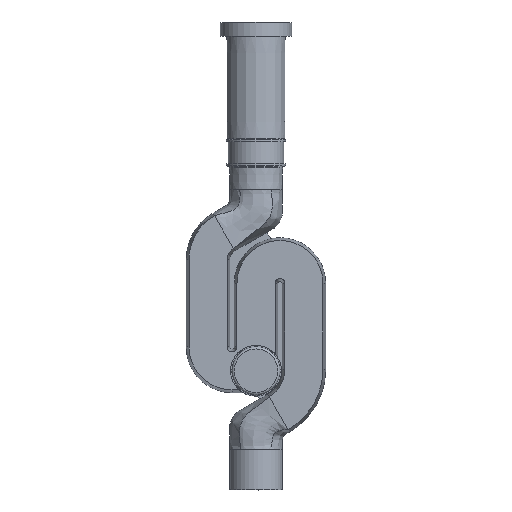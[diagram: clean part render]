
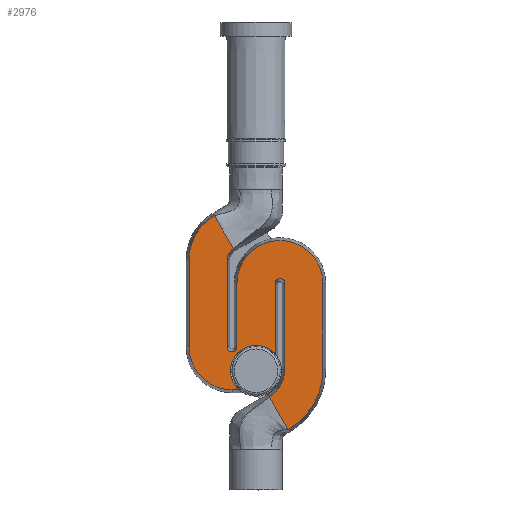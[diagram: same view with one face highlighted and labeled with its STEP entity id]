
A CAD part, top view. The second image highlights one B-rep face of the part: STEP entity #2976.
In plain terms, the highlighted planar face has unit normal (0, 0, 1).
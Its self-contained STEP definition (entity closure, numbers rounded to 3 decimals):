
#181=PLANE($,#3193);
#284=LINE($,#10530,#422);
#288=LINE($,#10539,#426);
#303=LINE($,#10840,#441);
#308=LINE($,#11694,#446);
#311=LINE($,#11813,#449);
#312=LINE($,#11817,#450);
#313=LINE($,#11822,#451);
#314=LINE($,#11825,#452);
#315=LINE($,#11829,#453);
#422=VECTOR($,#3641,90.);
#426=VECTOR($,#3651,124.);
#441=VECTOR($,#3690,34.);
#446=VECTOR($,#3697,54.);
#449=VECTOR($,#3706,124.);
#450=VECTOR($,#3709,122.025);
#451=VECTOR($,#3714,122.025);
#452=VECTOR($,#3717,54.);
#453=VECTOR($,#3720,124.);
#533=CIRCLE($,#3176,7.);
#534=CIRCLE($,#3179,18.);
#538=CIRCLE($,#3192,27.);
#539=CIRCLE($,#3194,7.);
#540=CIRCLE($,#3195,44.773);
#541=CIRCLE($,#3196,98.773);
#542=CIRCLE($,#3197,61.);
#543=CIRCLE($,#3198,72.);
#544=CIRCLE($,#3199,61.);
#765=FACE_OUTER_BOUND($,#934,.T.);
#934=EDGE_LOOP($,(#2320,#2321,#2322,#2323,#2324,#2325,#2326,#2327,#2328,
#2329,#2330,#2331,#2332,#2333,#2334,#2335,#2336,#2337));
#1328=VERTEX_POINT($,#10527);
#1329=VERTEX_POINT($,#10529);
#1330=VERTEX_POINT($,#10533);
#1331=VERTEX_POINT($,#10537);
#1332=VERTEX_POINT($,#10541);
#1348=VERTEX_POINT($,#10837);
#1349=VERTEX_POINT($,#10839);
#1362=VERTEX_POINT($,#11457);
#1364=VERTEX_POINT($,#11693);
#1366=VERTEX_POINT($,#11808);
#1367=VERTEX_POINT($,#11812);
#1368=VERTEX_POINT($,#11814);
#1369=VERTEX_POINT($,#11816);
#1370=VERTEX_POINT($,#11819);
#1371=VERTEX_POINT($,#11821);
#1372=VERTEX_POINT($,#11824);
#1373=VERTEX_POINT($,#11826);
#1374=VERTEX_POINT($,#11828);
#1666=EDGE_CURVE($,#1329,#1328,#284,.T.);
#1669=EDGE_CURVE($,#1328,#1330,#533,.T.);
#1671=EDGE_CURVE($,#1330,#1331,#288,.T.);
#1673=EDGE_CURVE($,#1331,#1332,#534,.T.);
#1698=EDGE_CURVE($,#1348,#1349,#303,.T.);
#1719=EDGE_CURVE($,#1362,#1364,#308,.T.);
#1724=EDGE_CURVE($,#1366,#1348,#538,.T.);
#1725=EDGE_CURVE($,#1367,#1366,#311,.T.);
#1726=EDGE_CURVE($,#1368,#1367,#539,.T.);
#1727=EDGE_CURVE($,#1369,#1368,#312,.T.);
#1728=EDGE_CURVE($,#1364,#1369,#540,.T.);
#1729=EDGE_CURVE($,#1362,#1370,#541,.T.);
#1730=EDGE_CURVE($,#1370,#1371,#313,.T.);
#1731=EDGE_CURVE($,#1371,#1329,#542,.T.);
#1732=EDGE_CURVE($,#1332,#1372,#314,.T.);
#1733=EDGE_CURVE($,#1373,#1372,#543,.T.);
#1734=EDGE_CURVE($,#1374,#1373,#315,.T.);
#1735=EDGE_CURVE($,#1349,#1374,#544,.T.);
#2320=ORIENTED_EDGE($,*,*,#1725,.F.);
#2321=ORIENTED_EDGE($,*,*,#1726,.F.);
#2322=ORIENTED_EDGE($,*,*,#1727,.F.);
#2323=ORIENTED_EDGE($,*,*,#1728,.F.);
#2324=ORIENTED_EDGE($,*,*,#1719,.F.);
#2325=ORIENTED_EDGE($,*,*,#1729,.T.);
#2326=ORIENTED_EDGE($,*,*,#1730,.T.);
#2327=ORIENTED_EDGE($,*,*,#1731,.T.);
#2328=ORIENTED_EDGE($,*,*,#1666,.T.);
#2329=ORIENTED_EDGE($,*,*,#1669,.T.);
#2330=ORIENTED_EDGE($,*,*,#1671,.T.);
#2331=ORIENTED_EDGE($,*,*,#1673,.T.);
#2332=ORIENTED_EDGE($,*,*,#1732,.T.);
#2333=ORIENTED_EDGE($,*,*,#1733,.F.);
#2334=ORIENTED_EDGE($,*,*,#1734,.F.);
#2335=ORIENTED_EDGE($,*,*,#1735,.F.);
#2336=ORIENTED_EDGE($,*,*,#1698,.F.);
#2337=ORIENTED_EDGE($,*,*,#1724,.F.);
#2976=ADVANCED_FACE($,(#765),#181,.T.);
#3176=AXIS2_PLACEMENT_3D($,#10535,#3646,#3647);
#3179=AXIS2_PLACEMENT_3D($,#10543,#3655,#3656);
#3192=AXIS2_PLACEMENT_3D($,#11810,#3702,#3703);
#3193=AXIS2_PLACEMENT_3D($,#11811,#3704,#3705);
#3194=AXIS2_PLACEMENT_3D($,#11815,#3707,#3708);
#3195=AXIS2_PLACEMENT_3D($,#11818,#3710,#3711);
#3196=AXIS2_PLACEMENT_3D($,#11820,#3712,#3713);
#3197=AXIS2_PLACEMENT_3D($,#11823,#3715,#3716);
#3198=AXIS2_PLACEMENT_3D($,#11827,#3718,#3719);
#3199=AXIS2_PLACEMENT_3D($,#11830,#3721,#3722);
#3641=DIRECTION($,(0.,-1.,0.));
#3646=DIRECTION('center_axis',(0.,0.,-1.));
#3647=DIRECTION('ref_axis',(1.,0.,0.));
#3651=DIRECTION($,(0.,1.,0.));
#3655=DIRECTION('center_axis',(0.,0.,-1.));
#3656=DIRECTION('ref_axis',(0.5,-0.866,0.));
#3690=DIRECTION($,(-1.,0.,0.));
#3697=DIRECTION($,(-0.5,0.866,0.));
#3702=DIRECTION('center_axis',(0.,0.,-1.));
#3703=DIRECTION('ref_axis',(0.,-1.,0.));
#3704=DIRECTION('center_axis',(0.,0.,1.));
#3705=DIRECTION('ref_axis',(1.,0.,0.));
#3706=DIRECTION($,(0.,-1.,0.));
#3707=DIRECTION('center_axis',(0.,0.,1.));
#3708=DIRECTION('ref_axis',(1.,0.,0.));
#3709=DIRECTION($,(0.,1.,0.));
#3710=DIRECTION('center_axis',(0.,0.,1.));
#3711=DIRECTION('ref_axis',(0.5,-0.866,0.));
#3712=DIRECTION('center_axis',(0.,0.,1.));
#3713=DIRECTION('ref_axis',(0.5,-0.866,0.));
#3714=DIRECTION($,(0.,1.,0.));
#3715=DIRECTION('center_axis',(0.,0.,1.));
#3716=DIRECTION('ref_axis',(1.,0.,0.));
#3717=DIRECTION($,(-0.5,0.866,0.));
#3718=DIRECTION('center_axis',(0.,0.,-1.));
#3719=DIRECTION('ref_axis',(0.5,-0.866,0.));
#3720=DIRECTION($,(0.,1.,0.));
#3721=DIRECTION('center_axis',(0.,0.,-1.));
#3722=DIRECTION('ref_axis',(1.,0.,0.));
#10527=CARTESIAN_POINT('',(-27.,-45.,37.5));
#10529=CARTESIAN_POINT('',(-27.,45.,37.5));
#10530=CARTESIAN_POINT($,(-27.,45.,37.5));
#10533=CARTESIAN_POINT('',(-41.,-45.,37.5));
#10535=CARTESIAN_POINT('Origin',(-34.,-45.,37.5));
#10537=CARTESIAN_POINT('',(-41.,79.,37.5));
#10539=CARTESIAN_POINT($,(-41.,-45.,37.5));
#10541=CARTESIAN_POINT('',(-32.,94.588,37.5));
#10543=CARTESIAN_POINT('Origin',(-23.,79.,37.5));
#10837=CARTESIAN_POINT('',(0.,-106.,37.5));
#10839=CARTESIAN_POINT('',(-34.,-106.,37.5));
#10840=CARTESIAN_POINT($,(-34.,-106.,37.5));
#11457=CARTESIAN_POINT('',(45.614,-162.564,37.5));
#11693=CARTESIAN_POINT('',(18.614,-115.799,37.5));
#11694=CARTESIAN_POINT($,(45.614,-162.564,37.5));
#11808=CARTESIAN_POINT('',(27.,-79.,37.5));
#11810=CARTESIAN_POINT('Origin',(0.,-79.,37.5));
#11811=CARTESIAN_POINT('Origin',(32.114,-139.182,37.5));
#11812=CARTESIAN_POINT('',(27.,45.,37.5));
#11813=CARTESIAN_POINT($,(27.,45.,37.5));
#11814=CARTESIAN_POINT('',(41.,45.,37.5));
#11815=CARTESIAN_POINT('Origin',(34.,45.,37.5));
#11816=CARTESIAN_POINT('',(41.,-77.025,37.5));
#11817=CARTESIAN_POINT($,(41.,-77.025,37.5));
#11818=CARTESIAN_POINT('Origin',(-3.773,-77.025,37.5));
#11819=CARTESIAN_POINT('',(95.,-77.025,37.5));
#11820=CARTESIAN_POINT('Origin',(-3.773,-77.025,37.5));
#11821=CARTESIAN_POINT('',(95.,45.,37.5));
#11822=CARTESIAN_POINT($,(95.,-77.025,37.5));
#11823=CARTESIAN_POINT('Origin',(34.,45.,37.5));
#11824=CARTESIAN_POINT('',(-59.,141.354,37.5));
#11825=CARTESIAN_POINT($,(-32.,94.588,37.5));
#11826=CARTESIAN_POINT('',(-95.,79.,37.5));
#11827=CARTESIAN_POINT('Origin',(-23.,79.,37.5));
#11828=CARTESIAN_POINT('',(-95.,-45.,37.5));
#11829=CARTESIAN_POINT($,(-95.,-45.,37.5));
#11830=CARTESIAN_POINT('Origin',(-34.,-45.,37.5));
